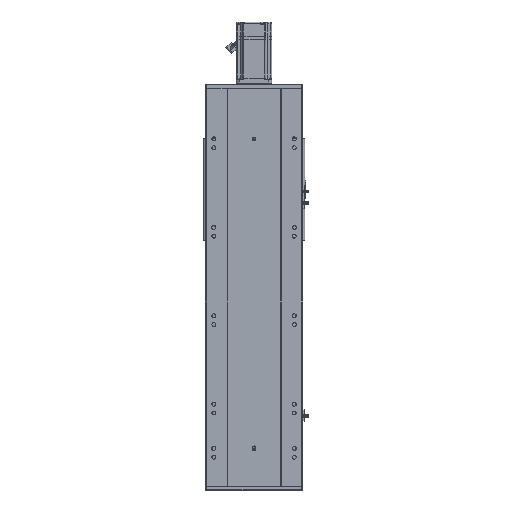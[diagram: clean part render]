
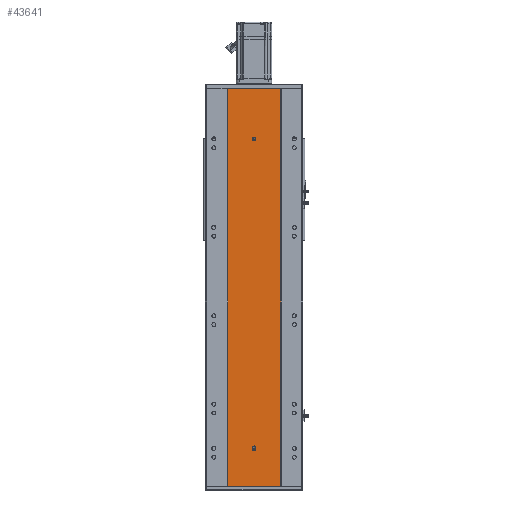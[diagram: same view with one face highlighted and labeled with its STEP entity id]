
A CAD part, front view. The second image highlights one B-rep face of the part: STEP entity #43641.
In plain terms, the highlighted planar face has unit normal (0, -1, 0).
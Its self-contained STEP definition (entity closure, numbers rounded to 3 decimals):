
#822 = DIRECTION ( 'NONE',  ( 0., 0., -1. ) ) ;
#1200 = EDGE_CURVE ( 'NONE', #14068, #48547, #55768, .T. ) ;
#2040 = FACE_BOUND ( 'NONE', #22060, .T. ) ;
#2694 = CARTESIAN_POINT ( 'NONE',  ( -60., 0., 900. ) ) ;
#3034 = CARTESIAN_POINT ( 'NONE',  ( -4., 0., 84.5 ) ) ;
#3642 = ORIENTED_EDGE ( 'NONE', *, *, #10466, .F. ) ;
#3720 = FACE_BOUND ( 'NONE', #14606, .T. ) ;
#4052 = AXIS2_PLACEMENT_3D ( 'NONE', #65762, #43894, #822 ) ;
#4294 = DIRECTION ( 'NONE',  ( 0., 0., 1. ) ) ;
#4805 = VERTEX_POINT ( 'NONE', #35081 ) ;
#4955 = ORIENTED_EDGE ( 'NONE', *, *, #39932, .F. ) ;
#5212 = DIRECTION ( 'NONE',  ( 1., 0., 0. ) ) ;
#6425 = ORIENTED_EDGE ( 'NONE', *, *, #11087, .F. ) ;
#6841 = ORIENTED_EDGE ( 'NONE', *, *, #39040, .F. ) ;
#6890 = DIRECTION ( 'NONE',  ( 0., 0., -1. ) ) ;
#8107 = DIRECTION ( 'NONE',  ( 0., 0., -1. ) ) ;
#10307 = VERTEX_POINT ( 'NONE', #42859 ) ;
#10466 = EDGE_CURVE ( 'NONE', #35935, #14031, #18102, .T. ) ;
#10479 = VECTOR ( 'NONE', #5212, 1000. ) ;
#10916 = ORIENTED_EDGE ( 'NONE', *, *, #53175, .T. ) ;
#11087 = EDGE_CURVE ( 'NONE', #23058, #58357, #13408, .T. ) ;
#11211 = VECTOR ( 'NONE', #30145, 1000. ) ;
#12549 = CARTESIAN_POINT ( 'NONE',  ( 0., 0., 84.5 ) ) ;
#12642 = LINE ( 'NONE', #40156, #39525 ) ;
#13408 = LINE ( 'NONE', #57886, #57933 ) ;
#14031 = VERTEX_POINT ( 'NONE', #68053 ) ;
#14068 = VERTEX_POINT ( 'NONE', #2694 ) ;
#14431 = VECTOR ( 'NONE', #29508, 1000. ) ;
#14606 = EDGE_LOOP ( 'NONE', ( #6425, #28593, #3642, #4955, #69528 ) ) ;
#15251 = CARTESIAN_POINT ( 'NONE',  ( 0., 0., 786. ) ) ;
#16285 = AXIS2_PLACEMENT_3D ( 'NONE', #21350, #26240, #43182 ) ;
#16582 = CARTESIAN_POINT ( 'NONE',  ( 0., 0., 790. ) ) ;
#17028 = LINE ( 'NONE', #56869, #56429 ) ;
#17991 = AXIS2_PLACEMENT_3D ( 'NONE', #55679, #34066, #33585 ) ;
#18102 = CIRCLE ( 'NONE', #67881, 4. ) ;
#18434 = VERTEX_POINT ( 'NONE', #68517 ) ;
#19390 = CARTESIAN_POINT ( 'NONE',  ( 0., 0., 87.5 ) ) ;
#20580 = CARTESIAN_POINT ( 'NONE',  ( 60., 0., 900. ) ) ;
#21128 = PLANE ( 'NONE',  #16285 ) ;
#21350 = CARTESIAN_POINT ( 'NONE',  ( -60., 0., 900. ) ) ;
#22060 = EDGE_LOOP ( 'NONE', ( #29437, #45702 ) ) ;
#23058 = VERTEX_POINT ( 'NONE', #45637 ) ;
#23516 = CARTESIAN_POINT ( 'NONE',  ( 4., 0., 87.5 ) ) ;
#24076 = CARTESIAN_POINT ( 'NONE',  ( -60., 0., 0. ) ) ;
#24480 = CARTESIAN_POINT ( 'NONE',  ( 60., 0., 900. ) ) ;
#24816 = EDGE_CURVE ( 'NONE', #14031, #23058, #60780, .T. ) ;
#24940 = CARTESIAN_POINT ( 'NONE',  ( -60., 0., 900. ) ) ;
#25915 = VERTEX_POINT ( 'NONE', #16582 ) ;
#26240 = DIRECTION ( 'NONE',  ( 0., 1., 0. ) ) ;
#28205 = VERTEX_POINT ( 'NONE', #24480 ) ;
#28593 = ORIENTED_EDGE ( 'NONE', *, *, #24816, .F. ) ;
#28767 = DIRECTION ( 'NONE',  ( 0., -1., 0. ) ) ;
#29437 = ORIENTED_EDGE ( 'NONE', *, *, #31913, .F. ) ;
#29508 = DIRECTION ( 'NONE',  ( 0., 0., -1. ) ) ;
#30145 = DIRECTION ( 'NONE',  ( 0., 0., -1. ) ) ;
#31913 = EDGE_CURVE ( 'NONE', #4805, #25915, #62823, .T. ) ;
#33383 = EDGE_LOOP ( 'NONE', ( #10916, #6841, #49945, #63254 ) ) ;
#33585 = DIRECTION ( 'NONE',  ( 0., 0., -1. ) ) ;
#34066 = DIRECTION ( 'NONE',  ( 0., -1., 0. ) ) ;
#34694 = EDGE_CURVE ( 'NONE', #25915, #4805, #35172, .T. ) ;
#35081 = CARTESIAN_POINT ( 'NONE',  ( 0., 0., 782. ) ) ;
#35172 = CIRCLE ( 'NONE', #4052, 4. ) ;
#35192 = DIRECTION ( 'NONE',  ( 1., 0., 0. ) ) ;
#35251 = DIRECTION ( 'NONE',  ( 0., 0., -1. ) ) ;
#35935 = VERTEX_POINT ( 'NONE', #3034 ) ;
#36128 = DIRECTION ( 'NONE',  ( 0., -1., 0. ) ) ;
#36534 = LINE ( 'NONE', #24076, #10479 ) ;
#38831 = LINE ( 'NONE', #20580, #14431 ) ;
#39040 = EDGE_CURVE ( 'NONE', #28205, #18434, #38831, .T. ) ;
#39525 = VECTOR ( 'NONE', #35192, 1000. ) ;
#39932 = EDGE_CURVE ( 'NONE', #10307, #35935, #17028, .T. ) ;
#40156 = CARTESIAN_POINT ( 'NONE',  ( -60., 0., 900. ) ) ;
#42859 = CARTESIAN_POINT ( 'NONE',  ( -4., 0., 87.5 ) ) ;
#43182 = DIRECTION ( 'NONE',  ( 0., 0., 1. ) ) ;
#43641 = ADVANCED_FACE ( 'NONE', ( #2040, #3720, #48303 ), #21128, .F. ) ;
#43894 = DIRECTION ( 'NONE',  ( 0., -1., 0. ) ) ;
#45637 = CARTESIAN_POINT ( 'NONE',  ( 4., 0., 84.5 ) ) ;
#45702 = ORIENTED_EDGE ( 'NONE', *, *, #34694, .F. ) ;
#47411 = DIRECTION ( 'NONE',  ( 0., 0., -1. ) ) ;
#47567 = EDGE_CURVE ( 'NONE', #14068, #28205, #12642, .T. ) ;
#48303 = FACE_OUTER_BOUND ( 'NONE', #33383, .T. ) ;
#48547 = VERTEX_POINT ( 'NONE', #57354 ) ;
#49945 = ORIENTED_EDGE ( 'NONE', *, *, #47567, .F. ) ;
#53175 = EDGE_CURVE ( 'NONE', #48547, #18434, #36534, .T. ) ;
#54279 = CIRCLE ( 'NONE', #58431, 4. ) ;
#55679 = CARTESIAN_POINT ( 'NONE',  ( 0., 0., 84.5 ) ) ;
#55768 = LINE ( 'NONE', #24940, #11211 ) ;
#56429 = VECTOR ( 'NONE', #35251, 1000. ) ;
#56869 = CARTESIAN_POINT ( 'NONE',  ( -4., 0., 84.5 ) ) ;
#57081 = AXIS2_PLACEMENT_3D ( 'NONE', #15251, #36128, #47411 ) ;
#57354 = CARTESIAN_POINT ( 'NONE',  ( -60., 0., 0. ) ) ;
#57886 = CARTESIAN_POINT ( 'NONE',  ( 4., 0., 84.5 ) ) ;
#57933 = VECTOR ( 'NONE', #4294, 1000. ) ;
#58357 = VERTEX_POINT ( 'NONE', #23516 ) ;
#58431 = AXIS2_PLACEMENT_3D ( 'NONE', #19390, #62383, #8107 ) ;
#60780 = CIRCLE ( 'NONE', #17991, 4. ) ;
#62383 = DIRECTION ( 'NONE',  ( 0., -1., 0. ) ) ;
#62823 = CIRCLE ( 'NONE', #57081, 4. ) ;
#63254 = ORIENTED_EDGE ( 'NONE', *, *, #1200, .T. ) ;
#63646 = EDGE_CURVE ( 'NONE', #58357, #10307, #54279, .T. ) ;
#65762 = CARTESIAN_POINT ( 'NONE',  ( 0., 0., 786. ) ) ;
#67881 = AXIS2_PLACEMENT_3D ( 'NONE', #12549, #28767, #6890 ) ;
#68053 = CARTESIAN_POINT ( 'NONE',  ( 0., 0., 80.5 ) ) ;
#68517 = CARTESIAN_POINT ( 'NONE',  ( 60., 0., 0. ) ) ;
#69528 = ORIENTED_EDGE ( 'NONE', *, *, #63646, .F. ) ;
